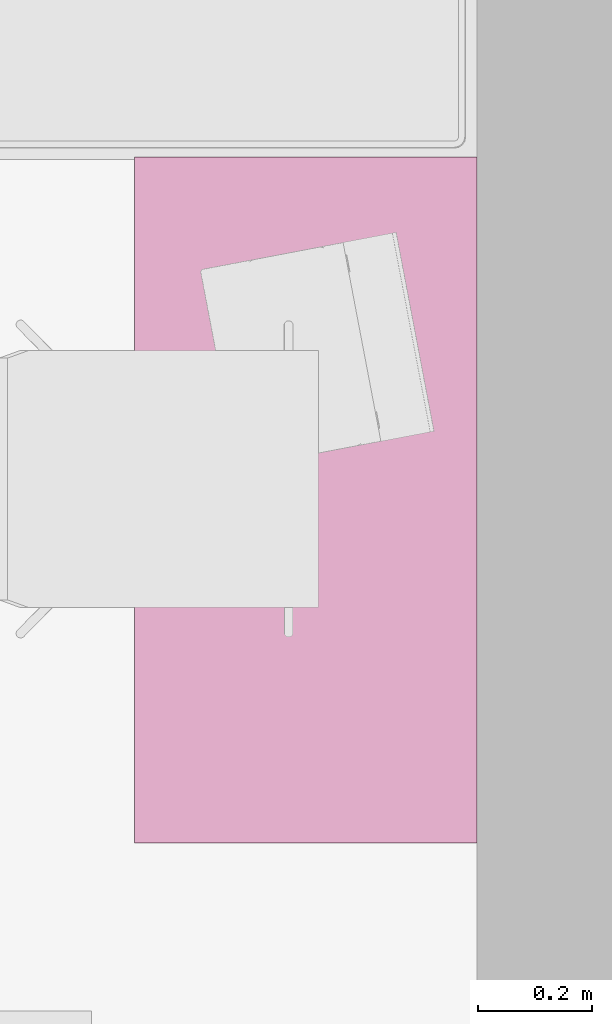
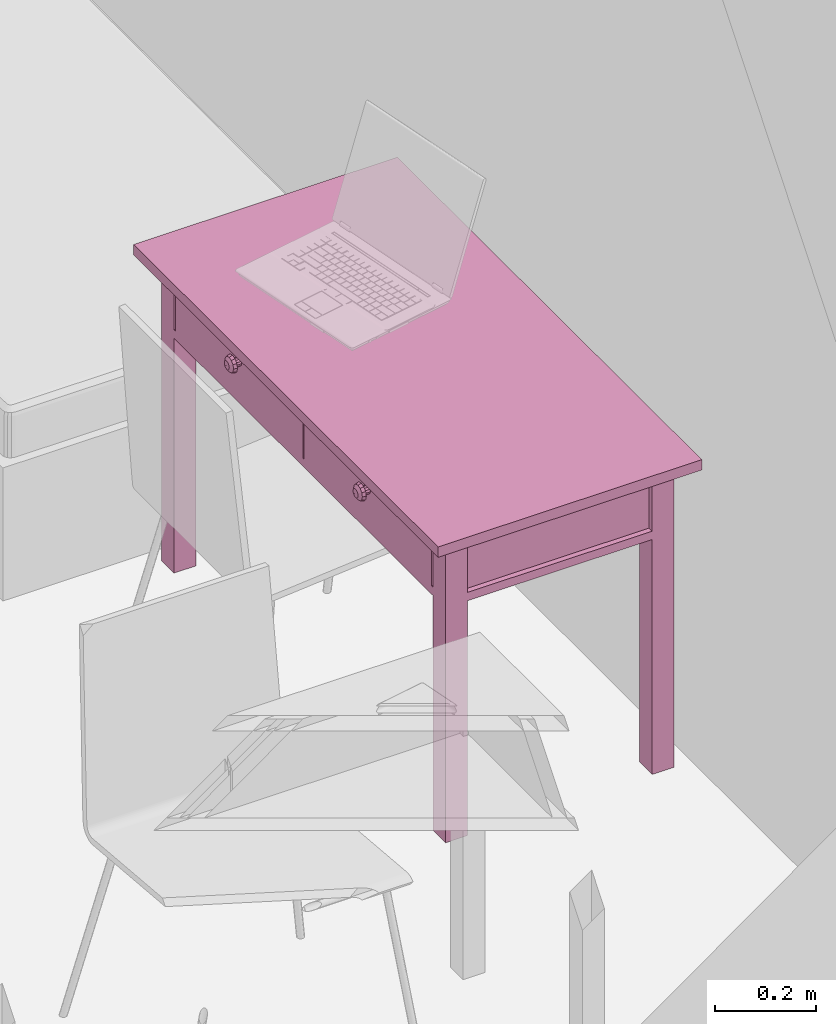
# One storey, part 60 of 165: 1 furnishing.
"""IFC2X3 building model written with IfcOpenShell, lengths in millimetres."""

from ifc_helpers import new_model, entity, si_unit, converted_unit, money_unit, direction, frame, origin_with_axes, place, context, subcontext, project, spatial, faceted_brep, source, transform, mapped, material, material_list, type_object, element, save


model = new_model("IFC2X3")

# Units and contexts
model_context = context("Model", 3, precision=1e-05, world=origin_with_axes(), true_north=direction((0.0, 1.0)))
body_context = subcontext(model_context, "Body", "Model", "MODEL_VIEW")
ifc_project = project(units=[si_unit("LENGTHUNIT", "METRE", prefix="MILLI"), si_unit("AREAUNIT", "SQUARE_METRE"), si_unit("VOLUMEUNIT", "CUBIC_METRE"), converted_unit("PLANEANGLEUNIT", "DEGREE", entity("IfcPlaneAngleMeasure", 0.0174532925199), si_unit("PLANEANGLEUNIT", "RADIAN"), dimensions=[0, 0, 0, 0, 0, 0, 0]), si_unit("SOLIDANGLEUNIT", "STERADIAN"), money_unit("USD"), converted_unit("TIMEUNIT", "Year", entity("IfcTimeMeasure", 31556926.0), si_unit("TIMEUNIT", "SECOND"), dimensions=[0, 0, 0, 0, 0, 0, 0]), si_unit("MASSUNIT", "GRAM"), si_unit("THERMODYNAMICTEMPERATUREUNIT", "DEGREE_CELSIUS"), si_unit("LUMINOUSINTENSITYUNIT", "LUMEN")], contexts=[model_context])

# Site, building, storey
site_placement = place(None, origin_with_axes())
site = spatial("IfcSite", under=ifc_project, at=site_placement, Name="Site", CompositionType="ELEMENT")
building_placement = place(site_placement, origin_with_axes())
building = spatial("IfcBuilding", under=site, at=building_placement, Name="Building", CompositionType="ELEMENT")
storey_placement = place(building_placement, frame((0.0, 0.0, 6300.0), z_axis=(0.0, 0.0, 1.0), x_axis=(1.0, 0.0, 0.0)))
storey = spatial("IfcBuildingStorey", under=building, at=storey_placement, Name="4KORRUS", CompositionType="ELEMENT", Elevation=6300.0)

# Furnishing
ifc_material = material(Name="Background")
ifc_material_list = material_list([ifc_material])
furnishing_element_type = type_object("IfcFurnishingElementType", Name="Rectangular Table 01 19")
shared_shape = source(origin_with_axes(), body_context, "Body", "Brep", [
    faceted_brep([(90.0, 40.0, 0.0), (40.0, 40.0, 0.0), (40.0, 90.0, 0.0), (90.0, 90.0, 0.0), (90.0, 40.0, 725.0), (40.0, 40.0, 725.0), (40.0, 90.0, 725.0), (90.0, 90.0, 725.0)], [[[0, 1, 2, 3]], [[1, 0, 4, 5]], [[2, 1, 5, 6]], [[3, 2, 6, 7]], [[0, 3, 7, 4]], [[5, 4, 7, 6]]]),
    faceted_brep([(1160.0, 40.0, 0.0), (1110.0, 40.0, 0.0), (1110.0, 90.0, 0.0), (1160.0, 90.0, 0.0), (1160.0, 40.0, 725.0), (1110.0, 40.0, 725.0), (1110.0, 90.0, 725.0), (1160.0, 90.0, 725.0)], [[[0, 1, 2, 3]], [[1, 0, 4, 5]], [[2, 1, 5, 6]], [[3, 2, 6, 7]], [[0, 3, 7, 4]], [[5, 4, 7, 6]]]),
    faceted_brep([(90.0, 510.0, 0.0), (40.0, 510.0, 0.0), (40.0, 560.0, 0.0), (90.0, 560.0, 0.0), (90.0, 510.0, 725.0), (40.0, 510.0, 725.0), (40.0, 560.0, 725.0), (90.0, 560.0, 725.0)], [[[0, 1, 2, 3]], [[1, 0, 4, 5]], [[2, 1, 5, 6]], [[3, 2, 6, 7]], [[0, 3, 7, 4]], [[5, 4, 7, 6]]]),
    faceted_brep([(1160.0, 510.0, 0.0), (1110.0, 510.0, 0.0), (1110.0, 560.0, 0.0), (1160.0, 560.0, 0.0), (1160.0, 510.0, 725.0), (1110.0, 510.0, 725.0), (1110.0, 560.0, 725.0), (1160.0, 560.0, 725.0)], [[[0, 1, 2, 3]], [[1, 0, 4, 5]], [[2, 1, 5, 6]], [[3, 2, 6, 7]], [[0, 3, 7, 4]], [[5, 4, 7, 6]]]),
    faceted_brep([(1160.0, 40.0, 565.0), (40.0, 40.0, 565.0), (40.0, 560.0, 565.0), (1160.0, 560.0, 565.0), (1160.0, 40.0, 585.0), (40.0, 40.0, 585.0), (40.0, 560.0, 585.0), (1160.0, 560.0, 585.0)], [[[0, 1, 2, 3]], [[1, 0, 4, 5]], [[2, 1, 5, 6]], [[3, 2, 6, 7]], [[0, 3, 7, 4]], [[5, 4, 7, 6]]]),
    faceted_brep([(1110.0, 52.5, 585.0), (90.0, 52.5, 585.0), (90.0, 77.5, 585.0), (1110.0, 77.5, 585.0), (1110.0, 52.5, 745.0), (90.0, 52.5, 745.0), (90.0, 77.5, 745.0), (1110.0, 77.5, 745.0)], [[[0, 1, 2, 3]], [[1, 0, 4, 5]], [[2, 1, 5, 6]], [[3, 2, 6, 7]], [[0, 3, 7, 4]], [[5, 4, 7, 6]]]),
    faceted_brep([(77.5, 90.0, 585.0), (52.5, 90.0, 585.0), (52.5, 510.0, 585.0), (77.5, 510.0, 585.0), (77.5, 90.0, 745.0), (52.5, 90.0, 745.0), (52.5, 510.0, 745.0), (77.5, 510.0, 745.0)], [[[0, 1, 2, 3]], [[1, 0, 4, 5]], [[2, 1, 5, 6]], [[3, 2, 6, 7]], [[0, 3, 7, 4]], [[5, 4, 7, 6]]]),
    faceted_brep([(90.0, 547.5, 585.0), (1110.0, 547.5, 585.0), (1110.0, 522.5, 585.0), (90.0, 522.5, 585.0), (90.0, 547.5, 745.0), (1110.0, 547.5, 745.0), (1110.0, 522.5, 745.0), (90.0, 522.5, 745.0)], [[[0, 1, 2, 3]], [[1, 0, 4, 5]], [[2, 1, 5, 6]], [[3, 2, 6, 7]], [[0, 3, 7, 4]], [[5, 4, 7, 6]]]),
    faceted_brep([(1122.5, 510.0, 585.0), (1147.5, 510.0, 585.0), (1147.5, 90.0, 585.0), (1122.5, 90.0, 585.0), (1122.5, 510.0, 745.0), (1147.5, 510.0, 745.0), (1147.5, 90.0, 745.0), (1122.5, 90.0, 745.0)], [[[0, 1, 2, 3]], [[1, 0, 4, 5]], [[2, 1, 5, 6]], [[3, 2, 6, 7]], [[0, 3, 7, 4]], [[5, 4, 7, 6]]]),
    faceted_brep([(597.5, 40.0, 585.0), (95.0, 40.0, 585.0), (95.0, 60.0, 585.0), (597.5, 60.0, 585.0), (597.5, 40.0, 745.0), (95.0, 40.0, 745.0), (95.0, 60.0, 745.0), (597.5, 60.0, 745.0)], [[[0, 1, 2, 3]], [[1, 0, 4, 5]], [[2, 1, 5, 6]], [[3, 2, 6, 7]], [[0, 3, 7, 4]], [[5, 4, 7, 6]]]),
    faceted_brep([(1105.0, 40.0, 585.0), (602.5, 40.0, 585.0), (602.5, 60.0, 585.0), (1105.0, 60.0, 585.0), (1105.0, 40.0, 745.0), (602.5, 40.0, 745.0), (602.5, 60.0, 745.0), (1105.0, 60.0, 745.0)], [[[0, 1, 2, 3]], [[1, 0, 4, 5]], [[2, 1, 5, 6]], [[3, 2, 6, 7]], [[0, 3, 7, 4]], [[5, 4, 7, 6]]]),
    faceted_brep([(354.91, 40.0, 660.0), (351.25, 40.0, 656.34), (346.25, 40.0, 655.0), (341.25, 40.0, 656.34), (337.59, 40.0, 660.0), (336.25, 40.0, 665.0), (337.59, 40.0, 670.0), (341.25, 40.0, 673.66), (346.25, 40.0, 675.0), (351.25, 40.0, 673.66), (354.91, 40.0, 670.0), (356.25, 40.0, 665.0), (354.91, 25.0, 660.0), (351.25, 25.0, 656.34), (346.25, 25.0, 655.0), (341.25, 25.0, 656.34), (337.59, 25.0, 660.0), (336.25, 25.0, 665.0), (337.59, 25.0, 670.0), (341.25, 25.0, 673.66), (346.25, 25.0, 675.0), (351.25, 25.0, 673.66), (354.91, 25.0, 670.0), (356.25, 25.0, 665.0)], [[[0, 1, 2, 3, 4, 5, 6, 7, 8, 9, 10, 11]], [[1, 0, 12, 13]], [[2, 1, 13, 14]], [[3, 2, 14, 15]], [[4, 3, 15, 16]], [[5, 4, 16, 17]], [[6, 5, 17, 18]], [[7, 6, 18, 19]], [[8, 7, 19, 20]], [[9, 8, 20, 21]], [[10, 9, 21, 22]], [[11, 10, 22, 23]], [[0, 11, 23, 12]], [[12, 23, 22, 21, 20, 19, 18, 17, 16, 15, 14, 13]]]),
    faceted_brep([(356.25, 12.01, 665.0), (346.25, 10.0, 665.0), (354.91, 12.01, 660.0), (354.91, 12.01, 670.0), (351.25, 12.01, 656.34), (363.571, 17.5, 665.0), (361.25, 17.5, 656.34), (351.25, 12.01, 673.66), (361.25, 17.5, 673.66), (346.25, 12.01, 655.0), (354.91, 17.5, 650.0), (366.25, 25.0, 665.0), (363.571, 25.0, 655.0), (346.25, 12.01, 675.0), (354.91, 17.5, 680.0), (363.571, 25.0, 675.0), (341.25, 12.01, 656.34), (346.25, 17.5, 647.679), (356.25, 25.0, 647.679), (346.25, 25.0, 645.0), (336.25, 25.0, 647.679), (328.929, 25.0, 655.0), (326.25, 25.0, 665.0), (328.929, 25.0, 675.0), (336.25, 25.0, 682.321), (346.25, 25.0, 685.0), (356.25, 25.0, 682.321), (341.25, 12.01, 673.66), (346.25, 17.5, 682.321), (337.59, 12.01, 660.0), (337.59, 17.5, 650.0), (331.25, 17.5, 656.34), (328.929, 17.5, 665.0), (331.25, 17.5, 673.66), (337.59, 17.5, 680.0), (337.59, 12.01, 670.0), (336.25, 12.01, 665.0)], [[[0, 1, 2]], [[3, 1, 0]], [[2, 1, 4]], [[5, 0, 2, 6]], [[7, 1, 3]], [[8, 3, 0, 5]], [[4, 1, 9]], [[6, 2, 4, 10]], [[11, 5, 6, 12]], [[13, 1, 7]], [[14, 7, 3, 8]], [[15, 8, 5, 11]], [[9, 1, 16]], [[10, 4, 9, 17]], [[12, 6, 10, 18]], [[12, 18, 19, 20, 21, 22, 23, 24, 25, 26, 15, 11]], [[27, 1, 13]], [[28, 13, 7, 14]], [[26, 14, 8, 15]], [[16, 1, 29]], [[17, 9, 16, 30]], [[18, 10, 17, 19]], [[19, 17, 30, 20]], [[20, 30, 31, 21]], [[21, 31, 32, 22]], [[22, 32, 33, 23]], [[23, 33, 34, 24]], [[24, 34, 28, 25]], [[25, 28, 14, 26]], [[35, 1, 27]], [[34, 27, 13, 28]], [[29, 1, 36]], [[30, 16, 29, 31]], [[31, 29, 36, 32]], [[32, 36, 35, 33]], [[33, 35, 27, 34]], [[36, 1, 35]]]),
    faceted_brep([(862.41, 40.0, 660.0), (858.75, 40.0, 656.34), (853.75, 40.0, 655.0), (848.75, 40.0, 656.34), (845.09, 40.0, 660.0), (843.75, 40.0, 665.0), (845.09, 40.0, 670.0), (848.75, 40.0, 673.66), (853.75, 40.0, 675.0), (858.75, 40.0, 673.66), (862.41, 40.0, 670.0), (863.75, 40.0, 665.0), (862.41, 25.0, 660.0), (858.75, 25.0, 656.34), (853.75, 25.0, 655.0), (848.75, 25.0, 656.34), (845.09, 25.0, 660.0), (843.75, 25.0, 665.0), (845.09, 25.0, 670.0), (848.75, 25.0, 673.66), (853.75, 25.0, 675.0), (858.75, 25.0, 673.66), (862.41, 25.0, 670.0), (863.75, 25.0, 665.0)], [[[0, 1, 2, 3, 4, 5, 6, 7, 8, 9, 10, 11]], [[1, 0, 12, 13]], [[2, 1, 13, 14]], [[3, 2, 14, 15]], [[4, 3, 15, 16]], [[5, 4, 16, 17]], [[6, 5, 17, 18]], [[7, 6, 18, 19]], [[8, 7, 19, 20]], [[9, 8, 20, 21]], [[10, 9, 21, 22]], [[11, 10, 22, 23]], [[0, 11, 23, 12]], [[12, 23, 22, 21, 20, 19, 18, 17, 16, 15, 14, 13]]]),
    faceted_brep([(863.75, 12.01, 665.0), (853.75, 10.0, 665.0), (862.41, 12.01, 660.0), (862.41, 12.01, 670.0), (858.75, 12.01, 656.34), (871.071, 17.5, 665.0), (868.75, 17.5, 656.34), (858.75, 12.01, 673.66), (868.75, 17.5, 673.66), (853.75, 12.01, 655.0), (862.41, 17.5, 650.0), (873.75, 25.0, 665.0), (871.071, 25.0, 655.0), (853.75, 12.01, 675.0), (862.41, 17.5, 680.0), (871.071, 25.0, 675.0), (848.75, 12.01, 656.34), (853.75, 17.5, 647.679), (863.75, 25.0, 647.679), (853.75, 25.0, 645.0), (843.75, 25.0, 647.679), (836.429, 25.0, 655.0), (833.75, 25.0, 665.0), (836.429, 25.0, 675.0), (843.75, 25.0, 682.321), (853.75, 25.0, 685.0), (863.75, 25.0, 682.321), (848.75, 12.01, 673.66), (853.75, 17.5, 682.321), (845.09, 12.01, 660.0), (845.09, 17.5, 650.0), (838.75, 17.5, 656.34), (836.429, 17.5, 665.0), (838.75, 17.5, 673.66), (845.09, 17.5, 680.0), (845.09, 12.01, 670.0), (843.75, 12.01, 665.0)], [[[0, 1, 2]], [[3, 1, 0]], [[2, 1, 4]], [[5, 0, 2, 6]], [[7, 1, 3]], [[8, 3, 0, 5]], [[4, 1, 9]], [[6, 2, 4, 10]], [[11, 5, 6, 12]], [[13, 1, 7]], [[14, 7, 3, 8]], [[15, 8, 5, 11]], [[9, 1, 16]], [[10, 4, 9, 17]], [[12, 6, 10, 18]], [[12, 18, 19, 20, 21, 22, 23, 24, 25, 26, 15, 11]], [[27, 1, 13]], [[28, 13, 7, 14]], [[26, 14, 8, 15]], [[16, 1, 29]], [[17, 9, 16, 30]], [[18, 10, 17, 19]], [[19, 17, 30, 20]], [[20, 30, 31, 21]], [[21, 31, 32, 22]], [[22, 32, 33, 23]], [[23, 33, 34, 24]], [[24, 34, 28, 25]], [[25, 28, 14, 26]], [[35, 1, 27]], [[34, 27, 13, 28]], [[29, 1, 36]], [[30, 16, 29, 31]], [[31, 29, 36, 32]], [[32, 36, 35, 33]], [[33, 35, 27, 34]], [[36, 1, 35]]]),
    faceted_brep([(1200.0, 0.0, 725.0), (0.0, 0.0, 725.0), (0.0, 600.0, 725.0), (1200.0, 600.0, 725.0), (1200.0, 0.0, 750.0), (0.0, 0.0, 750.0), (0.0, 600.0, 750.0), (1200.0, 600.0, 750.0)], [[[0, 1, 2, 3]], [[1, 0, 4, 5]], [[2, 1, 5, 6]], [[3, 2, 6, 7]], [[0, 3, 7, 4]], [[5, 4, 7, 6]]]),
])
furnishing_placement = place(storey_placement, frame((-42890.2967033, -17434.8573505, 0.0), z_axis=(0.0, 0.0, 1.0), x_axis=(0.0, -1.0, 0.0)))
element("IfcFurnishingElement", 1, at=furnishing_placement, inside=storey, type_object=furnishing_element_type, material=ifc_material_list, Name="FU - 011", context=body_context, shape_type="MappedRepresentation", body=[
    mapped(shared_shape, transform((0.0, 0.0, 0.0))),
])

save(model, "model.ifc")
